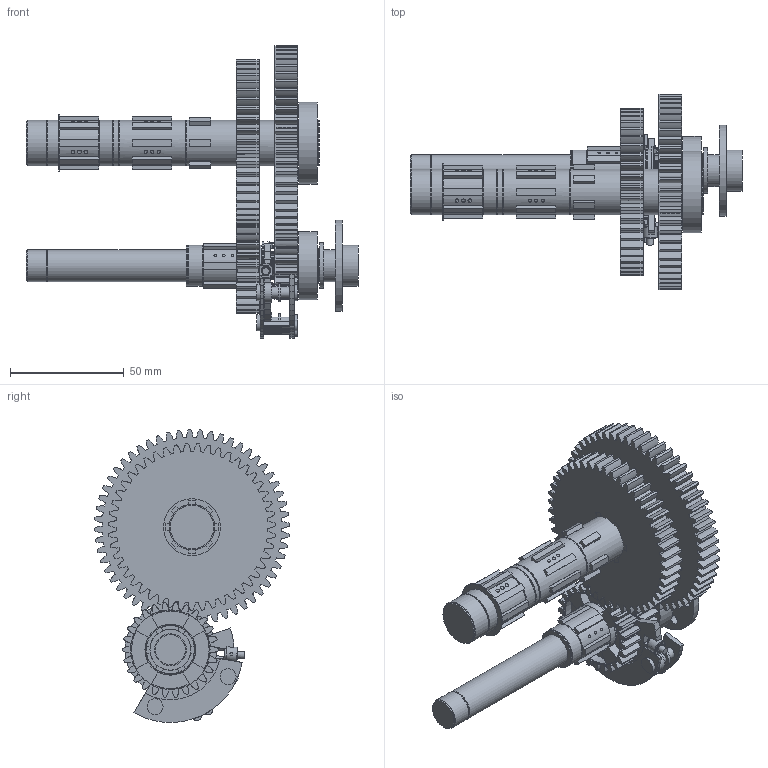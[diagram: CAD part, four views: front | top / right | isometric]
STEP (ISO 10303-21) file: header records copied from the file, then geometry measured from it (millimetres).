
FILE_DESCRIPTION(('Open CASCADE Model'),'2;1');
FILE_NAME('R12_B3_NEUTRAL','2026-09-28T18:13:19',('Author'),( 'Open CASCADE'),'Open CASCADE STEP processor 7.9','build123d', 'Unknown');
FILE_SCHEMA(('AUTOMOTIVE_DESIGN { 1 0 10303 214 1 1 1 1 }'));
Length unit declared in the file: millimetre
Products named in the file (31): R12_B3_NEUTRAL; B3_driver_56T; B3_driver_56T_key; intermediate_shaft_1_R6_B12_local_segment; B2_C2_PAIRED_driver_47T; B2_C2_PAIRED_free_26T; U_right_bearing; U_right_retaining_ring; U_right_shaft_seal; I_right_bearing; U_R12_local_12mm_shaft; U_R12_removable_original_bearing_seal_land; output_R12_detachable_R7_external_flange; output_R12_M5_retainer_thread_envelope; B3_R12_U_axis_single_sided_dog; B3_R12_free_17T_end_face_windows; B3_R12_12x14_flanged_plain_bush; B3_R12_bush_boundary_C_clip; B3_R12_U_axis_two_foot_fork; B3_R12_radial_follower_pin; B3_R12_follower_keeper; B3_R12_guide_rod_1_with_stop; B3_R12_guide_1_left_retainer; B3_R12_guide_1_right_retainer; B3_R12_guide_rod_2_with_stop; B3_R12_guide_2_left_retainer; B3_R12_guide_2_right_retainer; B3_R12_rear_support_M3_1; B3_R12_rear_support_M3_2; B3_R12_front_support_and_carrier; B3_R12_removable_rear_support
Assembly tree (30 placements, depth 2):
  R12_B3_NEUTRAL
    B3_driver_56T
    B3_driver_56T_key
    intermediate_shaft_1_R6_B12_local_segment
    B2_C2_PAIRED_driver_47T
    B2_C2_PAIRED_free_26T
    U_right_bearing
    U_right_retaining_ring
    U_right_shaft_seal
    I_right_bearing
    U_R12_local_12mm_shaft
    U_R12_removable_original_bearing_seal_land
    output_R12_detachable_R7_external_flange
    output_R12_M5_retainer_thread_envelope
    B3_R12_U_axis_single_sided_dog
    B3_R12_free_17T_end_face_windows
    B3_R12_12x14_flanged_plain_bush
    B3_R12_bush_boundary_C_clip
    B3_R12_U_axis_two_foot_fork
    B3_R12_radial_follower_pin
    B3_R12_follower_keeper
    B3_R12_guide_rod_1_with_stop
    B3_R12_guide_1_left_retainer
    B3_R12_guide_1_right_retainer
    B3_R12_guide_rod_2_with_stop
    B3_R12_guide_2_left_retainer
    B3_R12_guide_2_right_retainer
    B3_R12_rear_support_M3_1
    B3_R12_rear_support_M3_2
    B3_R12_front_support_and_carrier
    B3_R12_removable_rear_support
Bounding box: 146 x 85.79 x 128.79 mm (x, y, z)
Volume: 183375.2 mm3; surface area: 75834 mm2
Topology: 30 solids, 30 shells, 2343 faces, 6333 edges, 4163 vertices
Faces by surface type: plane 1530, cylinder 472, extrusion 292, sphere 33, cone 16
Full cylindrical faces by diameter (mm): 1.2 x1, 1.3 x3, 2 x4, 2.1 x4, 2.4 x2, 3 x1, 4 x2, 4.06 x1, 4.2 x1, 4.4 x6, 4.6 x2, 4.8 x1, 5 x4, 5.08 x6, 5.5 x1, 6.4 x1, 7 x4, 8 x2, 8.5 x1, 8.7 x1, 9 x2, 11.6 x1, 12 x2, 12.05 x2, 13.2 x4, 14 x7, 14.05 x1, 14.2 x2, 14.6 x1, 14.7 x1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
Entity records: 213729 total; most frequent: CARTESIAN_POINT 89526, DIRECTION 21230, VECTOR 13987, LINE 13695, ORIENTED_EDGE 12636, PCURVE 12636, DEFINITIONAL_REPRESENTATION 12636, EDGE_CURVE 6318
